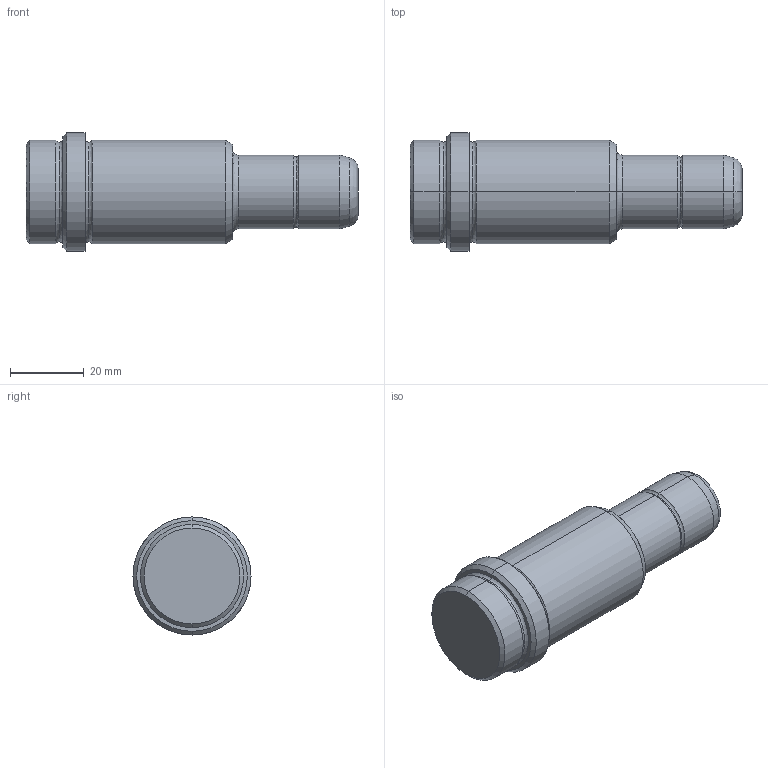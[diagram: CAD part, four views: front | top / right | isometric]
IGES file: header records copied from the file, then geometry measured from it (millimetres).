
Start section: START RECORD GO HERE.
Global section: file name: 357-20X56X90.igs; native system: DASSAULT SYSTEMES CATIA V5 R20 - www.3ds.com; preprocessor: CATIA Version 5 Release 20 ; author: Utente; organization: NB04-ASUS; date: 20210814.112105; units: millimetre
Bounding box: 90 x 32 x 32 mm (x, y, z)
Surface area: 8456.8 mm2 (no closed solid volume)
Topology: 0 solids, 0 shells, 39 faces, 224 edges, 224 vertices
Faces by surface type: revolution 34, plane 5
